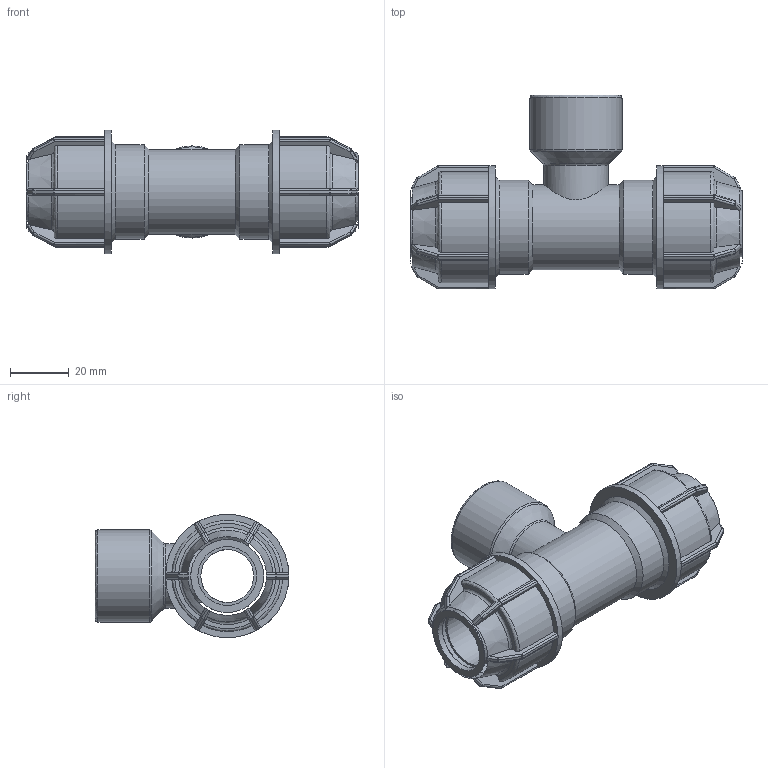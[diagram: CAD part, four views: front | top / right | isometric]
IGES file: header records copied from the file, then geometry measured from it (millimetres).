
Global section: file name: 141400020007.ipt; native system: Autodesk Inventor 2015; preprocessor: unknown; author: KIM; date: 20180416.111602; units: millimetre
Bounding box: 113 x 66 x 42 mm (x, y, z)
Volume: 71560.1 mm3; surface area: 28379.9 mm2
Topology: 1 solids, 1 shells, 412 faces, 997 edges, 584 vertices
Faces by surface type: plane 194, cylinder 115, sphere 48, revolution 38, cone 17
Full cylindrical faces by diameter (mm): 21.946 x1, 28.8 x1, 31.352 x1, 32 x2, 42 x2
